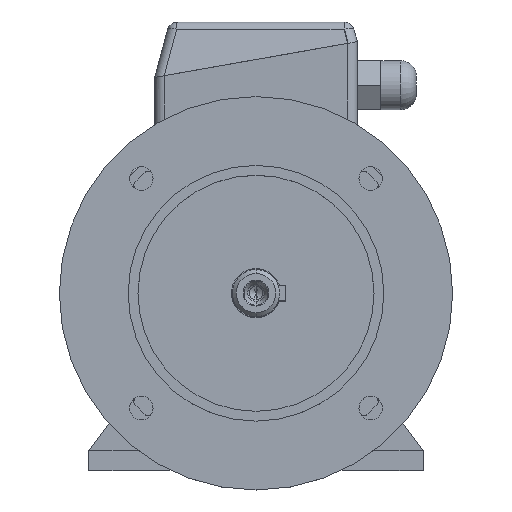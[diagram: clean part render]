
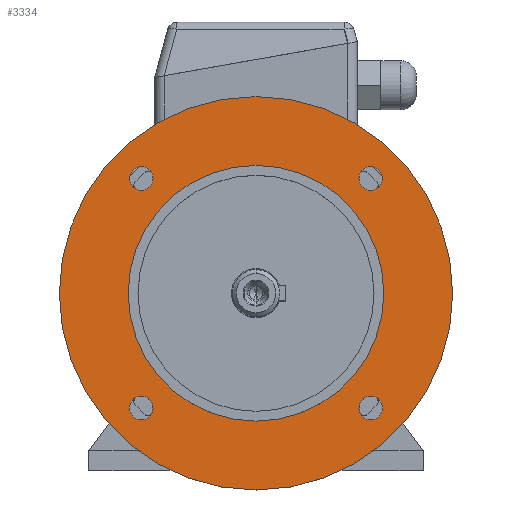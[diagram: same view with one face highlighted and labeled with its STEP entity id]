
A CAD part, top view. The second image highlights one B-rep face of the part: STEP entity #3334.
In plain terms, the highlighted planar face has unit normal (0, 0, 1).
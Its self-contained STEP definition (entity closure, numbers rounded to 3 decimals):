
#43 = VERTEX_POINT ( 'NONE', #9896 ) ;
#73 = CIRCLE ( 'NONE', #74, 65. ) ;
#74 = AXIS2_PLACEMENT_3D ( 'NONE', #75, #76, #77 ) ;
#75 = CARTESIAN_POINT ( 'NONE',  ( 0., 0., 40. ) ) ;
#76 = DIRECTION ( 'NONE',  ( 0., 0., -1. ) ) ;
#77 = DIRECTION ( 'NONE',  ( 0., 1., 0. ) ) ;
#103 = CARTESIAN_POINT ( 'NONE',  ( -64.336, 58.336, 40. ) ) ;
#381 = EDGE_CURVE ( 'NONE', #7841, #8119, #10043, .T. ) ;
#495 = CARTESIAN_POINT ( 'NONE',  ( 0., -65., 40. ) ) ;
#791 = ORIENTED_EDGE ( 'NONE', *, *, #381, .F. ) ;
#809 = VERTEX_POINT ( 'NONE', #10258 ) ;
#815 = CIRCLE ( 'NONE', #816, 6. ) ;
#816 = AXIS2_PLACEMENT_3D ( 'NONE', #817, #818, #819 ) ;
#817 = CARTESIAN_POINT ( 'NONE',  ( 58.336, 58.336, 40. ) ) ;
#818 = DIRECTION ( 'NONE',  ( 0., 0., 1. ) ) ;
#819 = DIRECTION ( 'NONE',  ( 1., 0., 0. ) ) ;
#1063 = VERTEX_POINT ( 'NONE', #10380 ) ;
#1306 = EDGE_CURVE ( 'NONE', #1063, #809, #10521, .T. ) ;
#1370 = EDGE_LOOP ( 'NONE', ( #791, #12281 ) ) ;
#1632 = ORIENTED_EDGE ( 'NONE', *, *, #4672, .F. ) ;
#1910 = CIRCLE ( 'NONE', #1911, 6. ) ;
#1911 = AXIS2_PLACEMENT_3D ( 'NONE', #1912, #1913, #1914 ) ;
#1912 = CARTESIAN_POINT ( 'NONE',  ( 58.336, -58.336, 40. ) ) ;
#1913 = DIRECTION ( 'NONE',  ( 0., 0., 1. ) ) ;
#1914 = DIRECTION ( 'NONE',  ( 1., 0., 0. ) ) ;
#2109 = CARTESIAN_POINT ( 'NONE',  ( -52.336, -58.336, 40. ) ) ;
#2205 = EDGE_CURVE ( 'NONE', #4427, #5661, #10948, .T. ) ;
#2352 = CIRCLE ( 'NONE', #2353, 6. ) ;
#2353 = AXIS2_PLACEMENT_3D ( 'NONE', #2354, #2355, #2356 ) ;
#2354 = CARTESIAN_POINT ( 'NONE',  ( -58.336, -58.336, 40. ) ) ;
#2355 = DIRECTION ( 'NONE',  ( 0., 0., 1. ) ) ;
#2356 = DIRECTION ( 'NONE',  ( 1., 0., 0. ) ) ;
#2605 = ORIENTED_EDGE ( 'NONE', *, *, #2205, .F. ) ;
#3158 = EDGE_LOOP ( 'NONE', ( #2605, #1632 ) ) ;
#3284 = CARTESIAN_POINT ( 'NONE',  ( -64.336, -58.336, 40. ) ) ;
#3334 = ADVANCED_FACE ( 'NONE', ( #11500, #11501, #11502, #11503, #11504, #11505 ), #11506, .T. ) ;
#3787 = ORIENTED_EDGE ( 'NONE', *, *, #1306, .F. ) ;
#3811 = CARTESIAN_POINT ( 'NONE',  ( 64.336, 58.336, 40. ) ) ;
#3926 = CIRCLE ( 'NONE', #3927, 6. ) ;
#3927 = AXIS2_PLACEMENT_3D ( 'NONE', #3928, #3932, #3933 ) ;
#3928 = CARTESIAN_POINT ( 'NONE',  ( 58.336, 58.336, 40. ) ) ;
#3932 = DIRECTION ( 'NONE',  ( 0., 0., 1. ) ) ;
#3933 = DIRECTION ( 'NONE',  ( 1., 0., 0. ) ) ;
#4357 = CARTESIAN_POINT ( 'NONE',  ( 52.336, 58.336, 40. ) ) ;
#4365 = EDGE_LOOP ( 'NONE', ( #3787, #8841 ) ) ;
#4427 = VERTEX_POINT ( 'NONE', #12028 ) ;
#4630 = EDGE_CURVE ( 'NONE', #6588, #5349, #12107, .T. ) ;
#4672 = EDGE_CURVE ( 'NONE', #5661, #4427, #12141, .T. ) ;
#4987 = CIRCLE ( 'NONE', #4988, 6. ) ;
#4988 = AXIS2_PLACEMENT_3D ( 'NONE', #4989, #4990, #4991 ) ;
#4989 = CARTESIAN_POINT ( 'NONE',  ( 58.336, -58.336, 40. ) ) ;
#4990 = DIRECTION ( 'NONE',  ( 0., 0., 1. ) ) ;
#4991 = DIRECTION ( 'NONE',  ( 1., 0., 0. ) ) ;
#5043 = ORIENTED_EDGE ( 'NONE', *, *, #4630, .T. ) ;
#5349 = VERTEX_POINT ( 'NONE', #12441 ) ;
#5384 = CARTESIAN_POINT ( 'NONE',  ( 52.336, -58.336, 40. ) ) ;
#5599 = EDGE_CURVE ( 'NONE', #5349, #6588, #73, .T. ) ;
#5619 = ORIENTED_EDGE ( 'NONE', *, *, #5599, .T. ) ;
#5661 = VERTEX_POINT ( 'NONE', #103 ) ;
#5707 = CIRCLE ( 'NONE', #5708, 100. ) ;
#5708 = AXIS2_PLACEMENT_3D ( 'NONE', #5709, #5710, #5711 ) ;
#5709 = CARTESIAN_POINT ( 'NONE',  ( 0., 0., 40. ) ) ;
#5710 = DIRECTION ( 'NONE',  ( 0., 0., -1. ) ) ;
#5711 = DIRECTION ( 'NONE',  ( 0., 1., 0. ) ) ;
#6381 = EDGE_LOOP ( 'NONE', ( #5619, #5043 ) ) ;
#6588 = VERTEX_POINT ( 'NONE', #495 ) ;
#6653 = ORIENTED_EDGE ( 'NONE', *, *, #8426, .F. ) ;
#7227 = EDGE_CURVE ( 'NONE', #8369, #8639, #815, .T. ) ;
#7488 = ORIENTED_EDGE ( 'NONE', *, *, #7227, .F. ) ;
#7606 = EDGE_LOOP ( 'NONE', ( #7488, #6653 ) ) ;
#7666 = ORIENTED_EDGE ( 'NONE', *, *, #8940, .F. ) ;
#7841 = VERTEX_POINT ( 'NONE', #2109 ) ;
#7900 = EDGE_CURVE ( 'NONE', #8119, #7841, #2352, .T. ) ;
#8119 = VERTEX_POINT ( 'NONE', #3284 ) ;
#8369 = VERTEX_POINT ( 'NONE', #3811 ) ;
#8426 = EDGE_CURVE ( 'NONE', #8639, #8369, #3926, .T. ) ;
#8639 = VERTEX_POINT ( 'NONE', #4357 ) ;
#8841 = ORIENTED_EDGE ( 'NONE', *, *, #9279, .F. ) ;
#8940 = EDGE_CURVE ( 'NONE', #9145, #43, #4987, .T. ) ;
#9145 = VERTEX_POINT ( 'NONE', #5384 ) ;
#9279 = EDGE_CURVE ( 'NONE', #809, #1063, #5707, .T. ) ;
#9896 = CARTESIAN_POINT ( 'NONE',  ( 64.336, -58.336, 40. ) ) ;
#10043 = CIRCLE ( 'NONE', #10044, 6. ) ;
#10044 = AXIS2_PLACEMENT_3D ( 'NONE', #10045, #10046, #10047 ) ;
#10045 = CARTESIAN_POINT ( 'NONE',  ( -58.336, -58.336, 40. ) ) ;
#10046 = DIRECTION ( 'NONE',  ( 0., 0., 1. ) ) ;
#10047 = DIRECTION ( 'NONE',  ( 1., 0., 0. ) ) ;
#10258 = CARTESIAN_POINT ( 'NONE',  ( 0., -100., 40. ) ) ;
#10380 = CARTESIAN_POINT ( 'NONE',  ( 0., 100., 40. ) ) ;
#10521 = CIRCLE ( 'NONE', #10522, 100. ) ;
#10522 = AXIS2_PLACEMENT_3D ( 'NONE', #10523, #10524, #10525 ) ;
#10523 = CARTESIAN_POINT ( 'NONE',  ( 0., 0., 40. ) ) ;
#10524 = DIRECTION ( 'NONE',  ( 0., 0., -1. ) ) ;
#10525 = DIRECTION ( 'NONE',  ( 0., 1., 0. ) ) ;
#10948 = CIRCLE ( 'NONE', #10949, 6. ) ;
#10949 = AXIS2_PLACEMENT_3D ( 'NONE', #10950, #10951, #10952 ) ;
#10950 = CARTESIAN_POINT ( 'NONE',  ( -58.336, 58.336, 40. ) ) ;
#10951 = DIRECTION ( 'NONE',  ( 0., 0., 1. ) ) ;
#10952 = DIRECTION ( 'NONE',  ( 1., 0., 0. ) ) ;
#11025 = EDGE_CURVE ( 'NONE', #43, #9145, #1910, .T. ) ;
#11435 = ORIENTED_EDGE ( 'NONE', *, *, #11025, .F. ) ;
#11500 = FACE_BOUND ( 'NONE', #3158, .T. ) ;
#11501 = FACE_BOUND ( 'NONE', #1370, .T. ) ;
#11502 = FACE_BOUND ( 'NONE', #12015, .T. ) ;
#11503 = FACE_BOUND ( 'NONE', #7606, .T. ) ;
#11504 = FACE_BOUND ( 'NONE', #6381, .T. ) ;
#11505 = FACE_OUTER_BOUND ( 'NONE', #4365, .T. ) ;
#11506 = PLANE ( 'NONE',  #11507 ) ;
#11507 = AXIS2_PLACEMENT_3D ( 'NONE', #11508, #11509, #11510 ) ;
#11508 = CARTESIAN_POINT ( 'NONE',  ( 0., 100., 40. ) ) ;
#11509 = DIRECTION ( 'NONE',  ( 0., 0., 1. ) ) ;
#11510 = DIRECTION ( 'NONE',  ( 0., -1., 0. ) ) ;
#12015 = EDGE_LOOP ( 'NONE', ( #11435, #7666 ) ) ;
#12028 = CARTESIAN_POINT ( 'NONE',  ( -52.336, 58.336, 40. ) ) ;
#12107 = CIRCLE ( 'NONE', #12108, 65. ) ;
#12108 = AXIS2_PLACEMENT_3D ( 'NONE', #12109, #12110, #12111 ) ;
#12109 = CARTESIAN_POINT ( 'NONE',  ( 0., 0., 40. ) ) ;
#12110 = DIRECTION ( 'NONE',  ( 0., 0., -1. ) ) ;
#12111 = DIRECTION ( 'NONE',  ( 0., 1., 0. ) ) ;
#12141 = CIRCLE ( 'NONE', #12142, 6. ) ;
#12142 = AXIS2_PLACEMENT_3D ( 'NONE', #12143, #12144, #12145 ) ;
#12143 = CARTESIAN_POINT ( 'NONE',  ( -58.336, 58.336, 40. ) ) ;
#12144 = DIRECTION ( 'NONE',  ( 0., 0., 1. ) ) ;
#12145 = DIRECTION ( 'NONE',  ( 1., 0., 0. ) ) ;
#12281 = ORIENTED_EDGE ( 'NONE', *, *, #7900, .F. ) ;
#12441 = CARTESIAN_POINT ( 'NONE',  ( 0., 65., 40. ) ) ;
